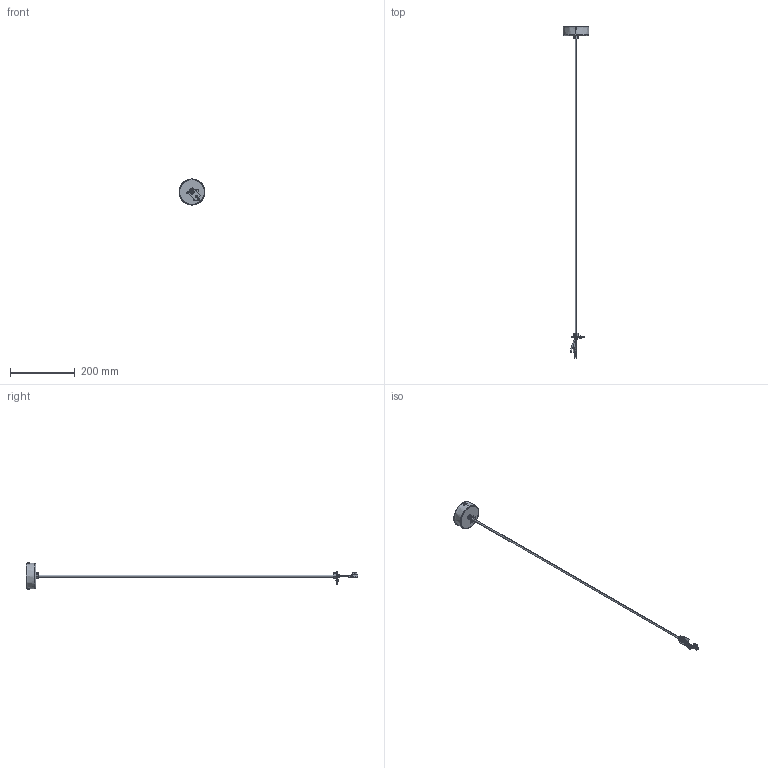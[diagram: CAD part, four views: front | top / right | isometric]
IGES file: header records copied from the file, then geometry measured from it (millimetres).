
Start section: SolidWorks IGES file using analytic representation for surfaces
Global section: file name: D:\Nowodworski\Modele 3D\Lampy\PROFILE TRACK\Z³o¿enie POWER SUPLY KIT 9238, 9237 DLA Asi.IGS; native system: SolidWorks 2017; preprocessor: SolidWorks 2017; author: DELL; date: 190702.135301; units: millimetre
Bounding box: 80 x 1024.51 x 84.32 mm (x, y, z)
Surface area: 58996.6 mm2 (no closed solid volume)
Topology: 0 solids, 0 shells, 868 faces, 9844 edges, 9820 vertices
Faces by surface type: bspline 487, revolution 381
